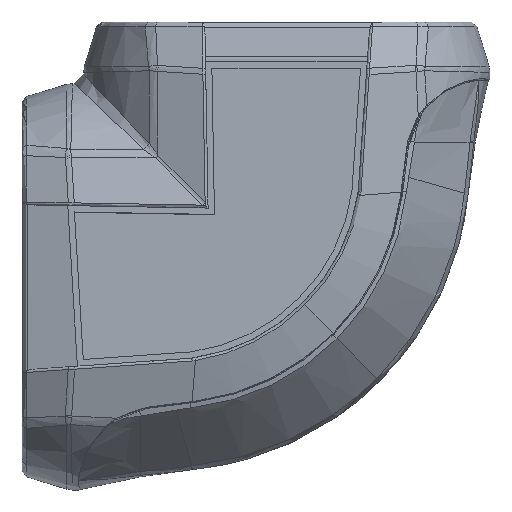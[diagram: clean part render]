
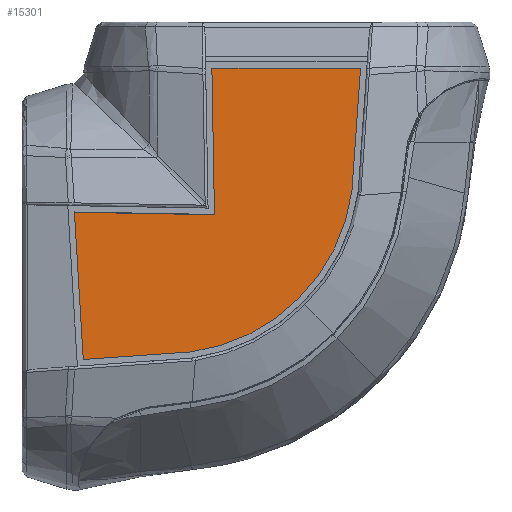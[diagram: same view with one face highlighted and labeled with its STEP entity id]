
A CAD part, left-side view. The second image highlights one B-rep face of the part: STEP entity #15301.
In plain terms, the highlighted planar face has unit normal (-1, 0, 0.012).
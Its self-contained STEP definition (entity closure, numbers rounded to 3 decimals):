
#13020=FACE_OUTER_BOUND('',#17362,.T.);
#15301=ADVANCED_FACE('',(#13020),#15590,.T.);
#15590=PLANE('',#34120);
#17362=EDGE_LOOP('',(#24925,#24926,#24927,#24928,#24929,#24930,#24931,#24932));
#18049=LINE('',#81967,#18699);
#18052=LINE('',#81973,#18702);
#18054=LINE('',#81977,#18704);
#18056=LINE('',#81981,#18706);
#18059=LINE('',#82094,#18709);
#18060=LINE('',#82096,#18710);
#18699=VECTOR('',#37557,1.);
#18702=VECTOR('',#37562,1.);
#18704=VECTOR('',#37566,1.);
#18706=VECTOR('',#37570,1.);
#18709=VECTOR('',#37575,1.);
#18710=VECTOR('',#37578,1.);
#24925=ORIENTED_EDGE('',*,*,#30744,.F.);
#24926=ORIENTED_EDGE('',*,*,#30745,.T.);
#24927=ORIENTED_EDGE('',*,*,#30731,.T.);
#24928=ORIENTED_EDGE('',*,*,#30734,.F.);
#24929=ORIENTED_EDGE('',*,*,#30736,.T.);
#24930=ORIENTED_EDGE('',*,*,#30738,.T.);
#24931=ORIENTED_EDGE('',*,*,#30740,.T.);
#24932=ORIENTED_EDGE('',*,*,#30742,.F.);
#27469=VERTEX_POINT('',#81966);
#27470=VERTEX_POINT('',#81968);
#27471=VERTEX_POINT('',#81972);
#27472=VERTEX_POINT('',#81976);
#27473=VERTEX_POINT('',#81980);
#27474=VERTEX_POINT('',#81987);
#27475=VERTEX_POINT('',#82049);
#27476=VERTEX_POINT('',#82093);
#30731=EDGE_CURVE('',#27470,#27469,#18049,.T.);
#30734=EDGE_CURVE('',#27471,#27469,#18052,.T.);
#30736=EDGE_CURVE('',#27471,#27472,#18054,.T.);
#30738=EDGE_CURVE('',#27472,#27473,#18056,.T.);
#30740=EDGE_CURVE('',#27473,#27474,#32665,.T.);
#30742=EDGE_CURVE('',#27475,#27474,#32666,.T.);
#30744=EDGE_CURVE('',#27476,#27475,#18059,.T.);
#30745=EDGE_CURVE('',#27476,#27470,#18060,.T.);
#32665=B_SPLINE_CURVE_WITH_KNOTS('',3,(#81988,#81989,#81990,#81991,#81992,
#81993,#81994,#81995,#81996,#81997,#81998,#81999),.UNSPECIFIED.,.F.,.F.,
(4,2,2,2,2,4),(0.,0.503,0.755,0.88,
0.943,1.),.UNSPECIFIED.);
#32666=B_SPLINE_CURVE_WITH_KNOTS('',3,(#82050,#82051,#82052,#82053,#82054,
#82055),.UNSPECIFIED.,.F.,.F.,(4,2,4),(0.,0.5,1.),.UNSPECIFIED.);
#34120=AXIS2_PLACEMENT_3D('',#82098,#37581,#37582);
#37557=DIRECTION('',(-0.012,-0.017,-1.));
#37562=DIRECTION('',(0.,-1.,-0.017));
#37566=DIRECTION('',(-0.012,-0.06,-0.998));
#37570=DIRECTION('',(0.001,-0.998,0.07));
#37575=DIRECTION('',(-0.012,0.07,-0.997));
#37578=DIRECTION('',(0.,1.,0.));
#37581=DIRECTION('',(-1.,0.,0.012));
#37582=DIRECTION('',(0.012,0.,1.));
#81966=CARTESIAN_POINT('',(396.479,-398.981,-51.553));
#81967=CARTESIAN_POINT('',(396.028,-399.626,-88.477));
#81968=CARTESIAN_POINT('',(397.049,-398.167,-4.9));
#81972=CARTESIAN_POINT('',(396.489,-354.309,-50.774));
#81973=CARTESIAN_POINT('',(396.489,-355.468,-50.794));
#81976=CARTESIAN_POINT('',(395.914,-357.127,-97.816));
#81977=CARTESIAN_POINT('',(396.02,-356.608,-89.151));
#81980=CARTESIAN_POINT('',(395.943,-391.39,-95.42));
#81981=CARTESIAN_POINT('',(395.913,-355.403,-97.936));
#81987=CARTESIAN_POINT('',(396.152,-425.775,-78.323));
#81988=CARTESIAN_POINT('',(395.943,-391.39,-95.42));
#81989=CARTESIAN_POINT('',(395.954,-397.959,-94.573));
#81990=CARTESIAN_POINT('',(395.977,-404.199,-92.67));
#81991=CARTESIAN_POINT('',(396.031,-413.08,-88.234));
#81992=CARTESIAN_POINT('',(396.052,-415.879,-86.53));
#81993=CARTESIAN_POINT('',(396.087,-419.835,-83.639));
#81994=CARTESIAN_POINT('',(396.1,-421.113,-82.62));
#81995=CARTESIAN_POINT('',(396.119,-422.969,-81.008));
#81996=CARTESIAN_POINT('',(396.126,-423.577,-80.456));
#81997=CARTESIAN_POINT('',(396.139,-424.716,-79.38));
#81998=CARTESIAN_POINT('',(396.146,-425.237,-78.866));
#81999=CARTESIAN_POINT('',(396.152,-425.774,-78.322));
#82049=CARTESIAN_POINT('',(396.572,-442.848,-43.963));
#82050=CARTESIAN_POINT('',(396.572,-442.848,-43.963));
#82051=CARTESIAN_POINT('',(396.492,-442.007,-50.487));
#82052=CARTESIAN_POINT('',(396.417,-440.126,-56.682));
#82053=CARTESIAN_POINT('',(396.273,-434.275,-68.46));
#82054=CARTESIAN_POINT('',(396.209,-430.462,-73.716));
#82055=CARTESIAN_POINT('',(396.152,-425.775,-78.323));
#82093=CARTESIAN_POINT('',(397.049,-445.579,-4.9));
#82094=CARTESIAN_POINT('',(396.582,-442.905,-43.14));
#82096=CARTESIAN_POINT('',(397.049,-354.797,-4.9));
#82098=CARTESIAN_POINT('',(396.019,-354.797,-89.259));
